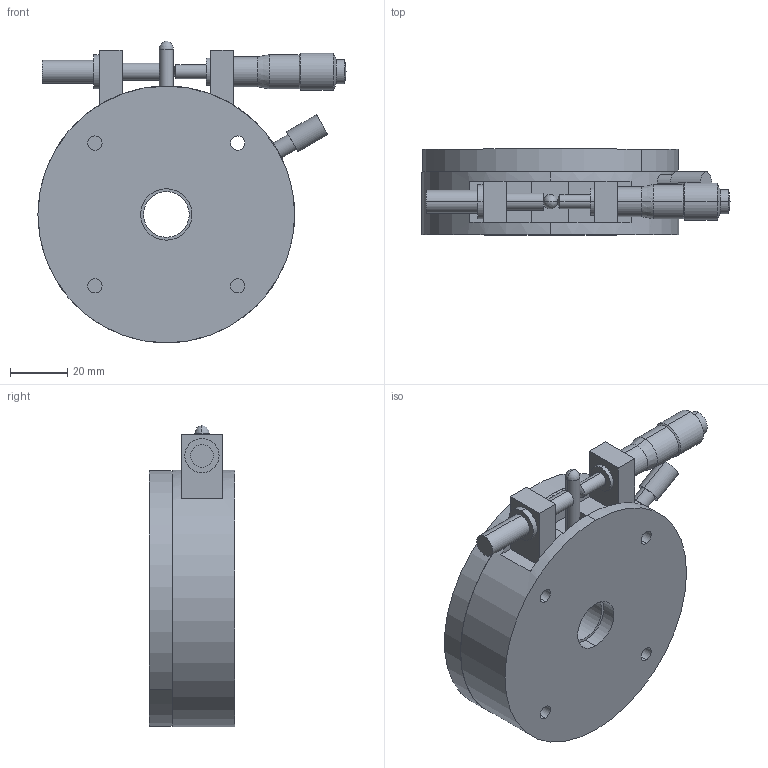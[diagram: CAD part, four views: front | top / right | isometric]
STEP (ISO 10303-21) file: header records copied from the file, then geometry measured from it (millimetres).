
FILE_DESCRIPTION (( 'STEP AP203' ), '1' );
FILE_NAME ('RS-911.STEP', '2008-02-25T01:42:16', ( '' ), ( '' ), 'SwSTEP 2.0', 'SolidWorks 2007', '' );
FILE_SCHEMA (( 'CONFIG_CONTROL_DESIGN' ));
Length unit declared in the file: millimetre
Products named in the file (3): RS-911-1_蹬怮椔; RS-911-2_蹬怮椔; RS-911
Assembly tree (2 placements, depth 2):
  RS-911
    RS-911-1_蹬怮椔
    RS-911-2_蹬怮椔
Bounding box: 108 x 30 x 105.75 mm (x, y, z)
Volume: 186922.6 mm3; surface area: 47095.5 mm2
Topology: 2 solids, 3 shells, 122 faces, 283 edges, 179 vertices
Faces by surface type: cylinder 68, plane 42, cone 8, torus 2, sphere 2
Entity records: 3946 total; most frequent: CARTESIAN_POINT 703, DIRECTION 679, ORIENTED_EDGE 558, EDGE_CURVE 279, AXIS2_PLACEMENT_3D 277, VERTEX_POINT 179, EDGE_LOOP 162, CIRCLE 150
